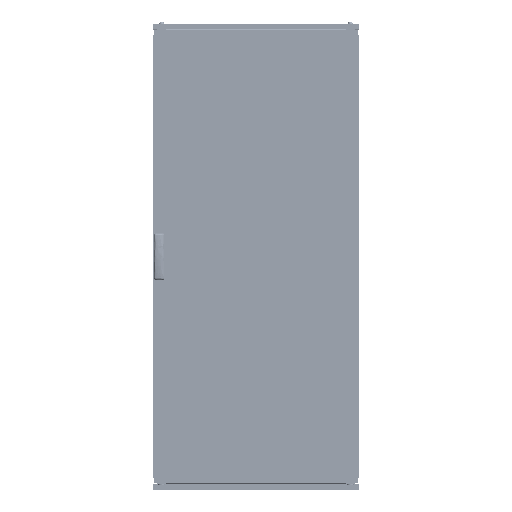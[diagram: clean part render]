
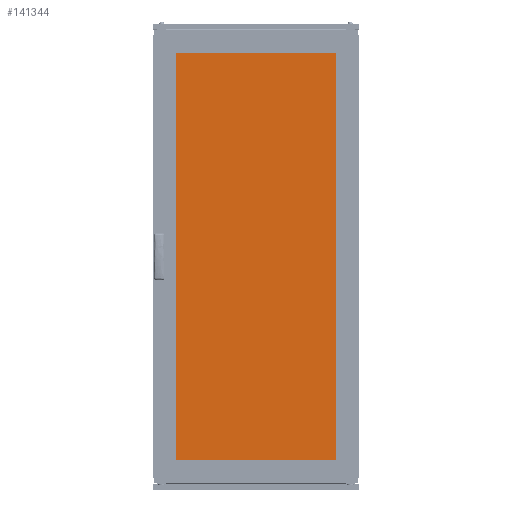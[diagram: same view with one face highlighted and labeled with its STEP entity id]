
A CAD part, top view. The second image highlights one B-rep face of the part: STEP entity #141344.
In plain terms, the highlighted planar face has unit normal (0, 0, 1).
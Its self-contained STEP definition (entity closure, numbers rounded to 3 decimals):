
#3358 = VERTEX_POINT ( 'NONE', #27494 ) ;
#3472 = ORIENTED_EDGE ( 'NONE', *, *, #53408, .T. ) ;
#5457 = VERTEX_POINT ( 'NONE', #28766 ) ;
#7747 = CARTESIAN_POINT ( 'NONE',  ( 330., -810., 5. ) ) ;
#8750 = LINE ( 'NONE', #77677, #64726 ) ;
#9092 = EDGE_CURVE ( 'NONE', #5457, #162405, #15187, .T. ) ;
#12607 = CARTESIAN_POINT ( 'NONE',  ( 330., -810., 5. ) ) ;
#15187 = LINE ( 'NONE', #84078, #15697 ) ;
#15697 = VECTOR ( 'NONE', #204833, 1000. ) ;
#27494 = CARTESIAN_POINT ( 'NONE',  ( -330., 810., 5. ) ) ;
#28766 = CARTESIAN_POINT ( 'NONE',  ( -330., -810., 5. ) ) ;
#29087 = VECTOR ( 'NONE', #29609, 1000. ) ;
#29609 = DIRECTION ( 'NONE',  ( 0., 1., 0. ) ) ;
#38646 = FACE_OUTER_BOUND ( 'NONE', #153023, .T. ) ;
#50939 = LINE ( 'NONE', #12607, #29087 ) ;
#52086 = VERTEX_POINT ( 'NONE', #126029 ) ;
#53408 = EDGE_CURVE ( 'NONE', #52086, #3358, #158732, .T. ) ;
#64726 = VECTOR ( 'NONE', #145413, 1000. ) ;
#77677 = CARTESIAN_POINT ( 'NONE',  ( -330., -810., 5. ) ) ;
#84078 = CARTESIAN_POINT ( 'NONE',  ( -330., -810., 5. ) ) ;
#116918 = DIRECTION ( 'NONE',  ( -1., 0., 0. ) ) ;
#126029 = CARTESIAN_POINT ( 'NONE',  ( 330., 810., 5. ) ) ;
#133842 = CARTESIAN_POINT ( 'NONE',  ( 0., 0., 5. ) ) ;
#141344 = ADVANCED_FACE ( 'NONE', ( #38646 ), #219605, .F. ) ;
#144098 = DIRECTION ( 'NONE',  ( -1., 0., 0. ) ) ;
#145413 = DIRECTION ( 'NONE',  ( 0., -1., 0. ) ) ;
#151214 = AXIS2_PLACEMENT_3D ( 'NONE', #133842, #202681, #116918 ) ;
#152625 = ORIENTED_EDGE ( 'NONE', *, *, #189187, .T. ) ;
#153023 = EDGE_LOOP ( 'NONE', ( #152625, #3472, #194020, #209789 ) ) ;
#158732 = LINE ( 'NONE', #195920, #196040 ) ;
#162405 = VERTEX_POINT ( 'NONE', #7747 ) ;
#189187 = EDGE_CURVE ( 'NONE', #162405, #52086, #50939, .T. ) ;
#194020 = ORIENTED_EDGE ( 'NONE', *, *, #196669, .T. ) ;
#195920 = CARTESIAN_POINT ( 'NONE',  ( -330., 810., 5. ) ) ;
#196040 = VECTOR ( 'NONE', #144098, 1000. ) ;
#196669 = EDGE_CURVE ( 'NONE', #3358, #5457, #8750, .T. ) ;
#202681 = DIRECTION ( 'NONE',  ( 0., 0., -1. ) ) ;
#204833 = DIRECTION ( 'NONE',  ( 1., 0., 0. ) ) ;
#209789 = ORIENTED_EDGE ( 'NONE', *, *, #9092, .T. ) ;
#219605 = PLANE ( 'NONE',  #151214 ) ;
